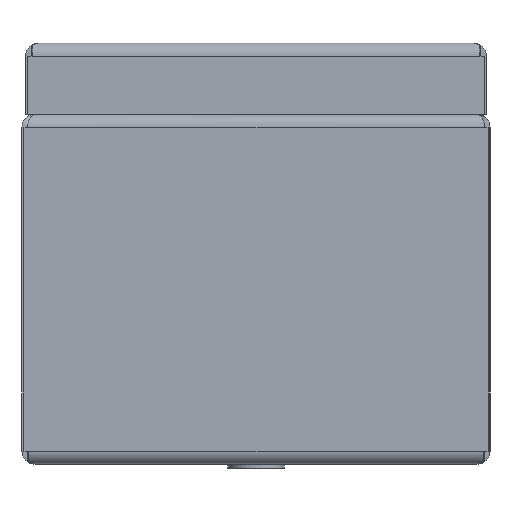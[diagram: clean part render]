
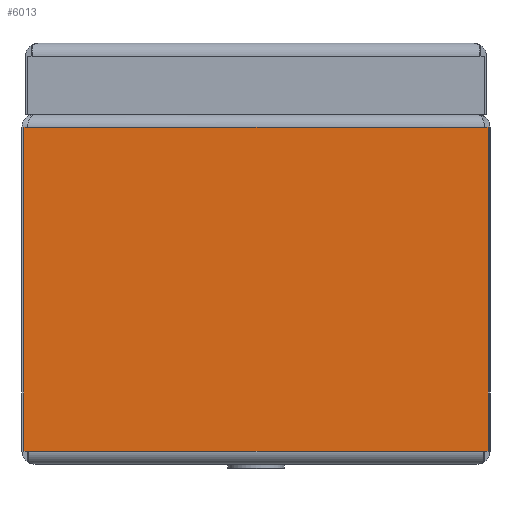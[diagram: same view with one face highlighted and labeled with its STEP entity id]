
A CAD part, left-side view. The second image highlights one B-rep face of the part: STEP entity #6013.
In plain terms, the highlighted planar face has unit normal (-1, 0, 0).
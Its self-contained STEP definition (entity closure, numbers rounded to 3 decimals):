
#187=B_SPLINE_CURVE_WITH_KNOTS('',3,(#10367,#10368,#10369,#10370),
 .UNSPECIFIED.,.F.,.F.,(4,4),(0.002,0.003),
 .UNSPECIFIED.);
#686=LINE('',#10331,#1254);
#691=LINE('',#10341,#1259);
#719=LINE('',#10484,#1287);
#720=LINE('',#10510,#1288);
#724=LINE('',#10528,#1292);
#726=LINE('',#10531,#1294);
#728=LINE('',#10535,#1296);
#1254=VECTOR('',#8237,1000.);
#1259=VECTOR('',#8252,1000.);
#1287=VECTOR('',#8318,1000.);
#1288=VECTOR('',#8321,1000.);
#1292=VECTOR('',#8329,1000.);
#1294=VECTOR('',#8333,1000.);
#1296=VECTOR('',#8339,1000.);
#2477=ORIENTED_EDGE('',*,*,#3672,.F.);
#2478=ORIENTED_EDGE('',*,*,#3621,.F.);
#2479=ORIENTED_EDGE('',*,*,#3616,.F.);
#2480=ORIENTED_EDGE('',*,*,#3670,.F.);
#2481=ORIENTED_EDGE('',*,*,#3668,.F.);
#2482=ORIENTED_EDGE('',*,*,#3662,.T.);
#2483=ORIENTED_EDGE('',*,*,#3660,.T.);
#2484=ORIENTED_EDGE('',*,*,#3627,.F.);
#3616=EDGE_CURVE('',#4284,#4281,#686,.T.);
#3621=EDGE_CURVE('',#4281,#4285,#691,.T.);
#3627=EDGE_CURVE('',#4290,#4287,#187,.F.);
#3660=EDGE_CURVE('',#4307,#4287,#719,.T.);
#3662=EDGE_CURVE('',#4309,#4307,#720,.T.);
#3668=EDGE_CURVE('',#4309,#4311,#724,.T.);
#3670=EDGE_CURVE('',#4311,#4284,#726,.T.);
#3672=EDGE_CURVE('',#4285,#4290,#728,.T.);
#4281=VERTEX_POINT('',#10324);
#4284=VERTEX_POINT('',#10330);
#4285=VERTEX_POINT('',#10342);
#4287=VERTEX_POINT('',#10358);
#4290=VERTEX_POINT('',#10366);
#4307=VERTEX_POINT('',#10475);
#4309=VERTEX_POINT('',#10511);
#4311=VERTEX_POINT('',#10525);
#4920=EDGE_LOOP('',(#2477,#2478,#2479,#2480,#2481,#2482,#2483,#2484));
#5356=FACE_BOUND('',#4920,.T.);
#5710=PLANE('',#7104);
#6013=ADVANCED_FACE('',(#5356),#5710,.T.);
#7104=AXIS2_PLACEMENT_3D('',#10536,#8340,#8341);
#8237=DIRECTION('',(0.,1.,0.));
#8252=DIRECTION('',(0.,1.,0.));
#8318=DIRECTION('',(0.,1.,0.));
#8321=DIRECTION('',(0.,1.,0.));
#8329=DIRECTION('',(0.,0.,-1.));
#8333=DIRECTION('',(0.,1.,0.));
#8339=DIRECTION('',(0.,0.,1.));
#8340=DIRECTION('',(-1.,0.,0.));
#8341=DIRECTION('',(0.,0.,1.));
#10324=CARTESIAN_POINT('',(-75.,48.599,1.6));
#10330=CARTESIAN_POINT('',(-75.,-48.599,1.6));
#10331=CARTESIAN_POINT('',(-75.,-334.6,1.6));
#10341=CARTESIAN_POINT('',(-75.,-334.6,1.6));
#10342=CARTESIAN_POINT('',(-75.,49.604,1.6));
#10358=CARTESIAN_POINT('',(-75.,48.797,70.8));
#10366=CARTESIAN_POINT('',(-75.,49.604,70.8));
#10367=CARTESIAN_POINT('',(-75.,48.797,70.8));
#10368=CARTESIAN_POINT('',(-75.,49.066,70.8));
#10369=CARTESIAN_POINT('',(-75.,49.335,70.8));
#10370=CARTESIAN_POINT('',(-75.,49.604,70.8));
#10475=CARTESIAN_POINT('',(-75.,-48.797,70.8));
#10484=CARTESIAN_POINT('',(-75.,-334.6,70.8));
#10510=CARTESIAN_POINT('',(-75.,-334.6,70.8));
#10511=CARTESIAN_POINT('',(-75.,-49.604,70.8));
#10525=CARTESIAN_POINT('',(-75.,-49.604,1.6));
#10528=CARTESIAN_POINT('',(-75.,-49.604,-1.2));
#10531=CARTESIAN_POINT('',(-75.,-334.6,1.6));
#10535=CARTESIAN_POINT('',(-75.,49.604,-1.2));
#10536=CARTESIAN_POINT('',(-75.,-334.6,-1.2));
